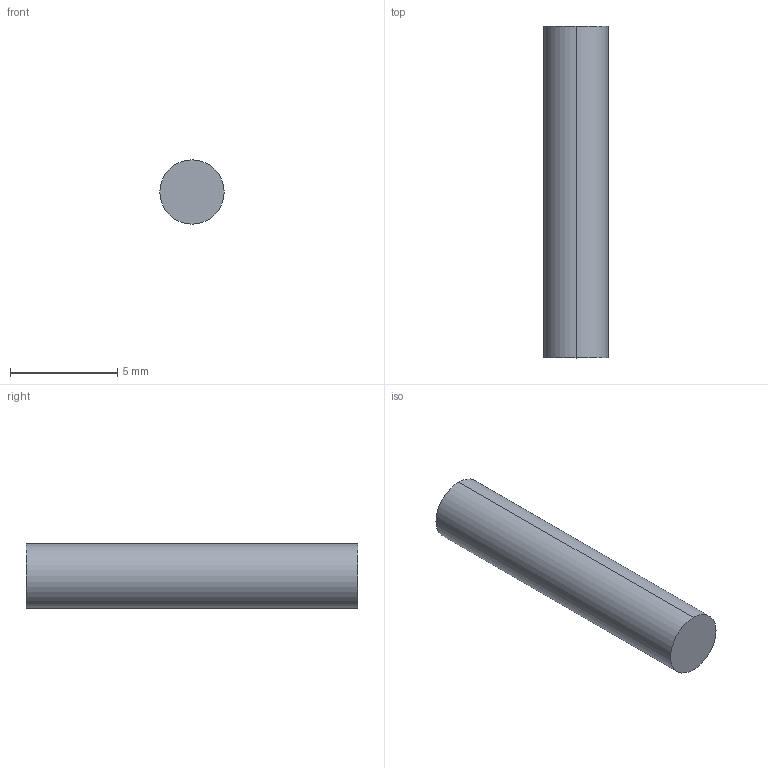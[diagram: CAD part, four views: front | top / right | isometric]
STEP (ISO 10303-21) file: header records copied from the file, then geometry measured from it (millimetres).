
FILE_DESCRIPTION (( 'STEP AP214' ), '1' );
FILE_NAME ('P-01012 - Snap Ring Handle Hinge Pin - v2.1.2_Straight Pin - Crimp.STEP', '2026-06-12T21:56:37', ( '' ), ( '' ), 'SwSTEP 2.0', 'SolidWorks 2023', '' );
FILE_SCHEMA (( 'AUTOMOTIVE_DESIGN' ));
Length unit declared in the file: inch
Products named in the file (1): P-01012 - Snap Ring Handle Hinge Pin - v2.1.2_Straight Pin - Crimp
Bounding box: 3 x 15.5 x 3 mm (x, y, z)
Volume: 109.6 mm3; surface area: 160.2 mm2
Topology: 1 solids, 1 shells, 4 faces, 6 edges, 4 vertices
Faces by surface type: plane 2, cylinder 2
Entity records: 121 total; most frequent: DIRECTION 20, CARTESIAN_POINT 15, ORIENTED_EDGE 12, AXIS2_PLACEMENT_3D 9, EDGE_CURVE 6, EDGE_LOOP 4, ADVANCED_FACE 4, VERTEX_POINT 4
